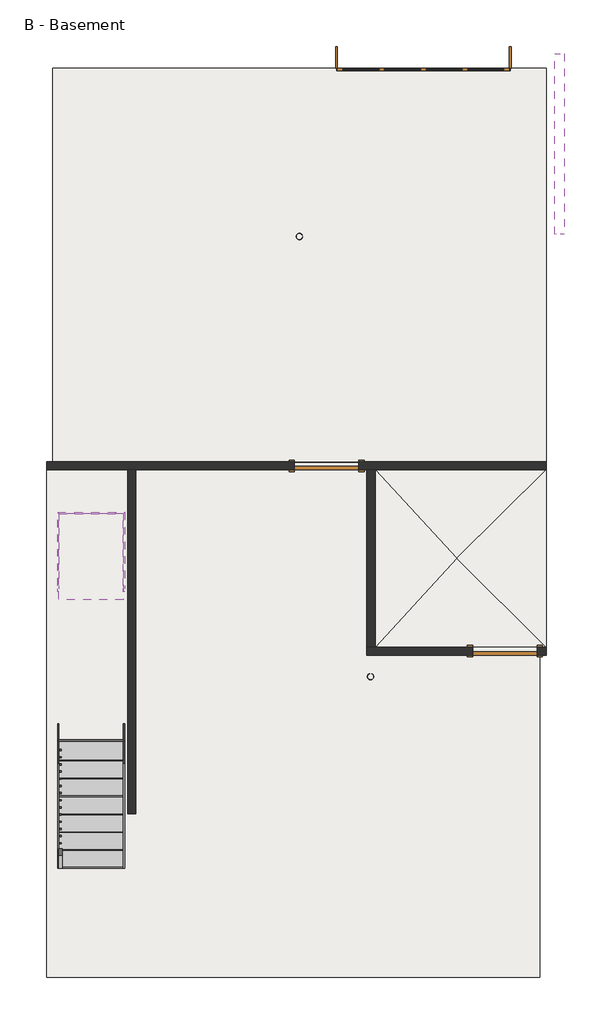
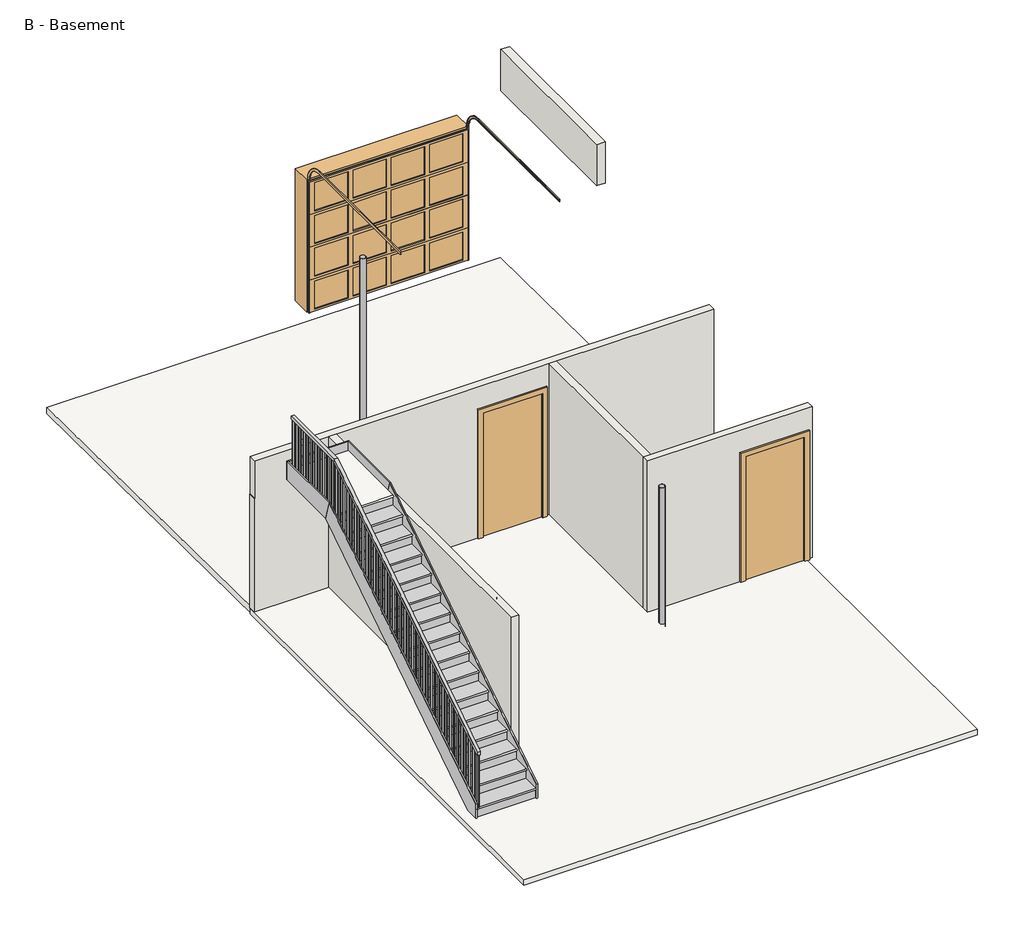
# One storey: 6 columns, 5 members, 5 walls, 4 doors, 4 slabs, 1 railing, 1 stair flight.
"""IFC4 building model written with IfcOpenShell, lengths in millimetres."""

from ifc_helpers import new_model, si_unit, frame, origin, place, context, project, spatial, polyline, outline, extrude, faceted_brep, transform, mapped, element, save
from components import pipe_column_pipe3std_9084b5a9, pipe_column_pipe3std_1d2571e4, pipe_column_pipe3std_a24632ea, pipe_column_pipe3std_cec0fb77, door_7a04b6f2, door_5e62189b, non_monolithic_landing_b96ad3e3, stair_flight_4d136fde

model = new_model("IFC4")

# Units and contexts
model_context = context("Model", 3, world=origin())
ifc_project = project(units=[si_unit("LENGTHUNIT", "METRE", prefix="MILLI")], contexts=[model_context])

# Site, building, storey
site = spatial("IfcSite", under=ifc_project)
building = spatial("IfcBuilding", under=site)
storey = spatial("IfcBuildingStorey", under=building, Name="B - Basement", Elevation=-2178.05)

# Columns
placement = place(None, origin())
pipe_column_pipe3std_shape = pipe_column_pipe3std_9084b5a9(model_context)
element("IfcColumn", 1, ObjectType="Pipe-Column : Pipe3STD", at=placement, inside=storey, context=model_context, shape_type="MappedRepresentation", body=[
    mapped(pipe_column_pipe3std_shape, transform((640.2370514, -2782.5289462, 0.0), x_axis=(1.0, 0.0, 0.0), y_axis=(0.0, 1.0, 0.0), z_axis=(0.0, 0.0, 1.0))),
])
element("IfcColumn", 2, ObjectType="Pipe-Column : Pipe3STD", at=placement, inside=storey, context=model_context, shape_type="MappedRepresentation", body=[
    mapped(pipe_column_pipe3std_shape, transform((-2750.6629486, -2782.5289462, 0.0), x_axis=(1.0, 0.0, 0.0), y_axis=(0.0, 1.0, 0.0), z_axis=(0.0, 0.0, 1.0))),
])
pipe_column_pipe3std_2_shape = pipe_column_pipe3std_1d2571e4(model_context)
element("IfcColumn", 3, ObjectType="Pipe-Column : Pipe3STD", at=placement, inside=storey, context=model_context, shape_type="MappedRepresentation", body=[
    mapped(pipe_column_pipe3std_2_shape, transform((-2750.6629486, -4154.1289462, 0.0), x_axis=(1.0, 0.0, 0.0), y_axis=(0.0, 1.0, 0.0), z_axis=(0.0, 0.0, 1.0))),
])
pipe_column_pipe3std_3_shape = pipe_column_pipe3std_a24632ea(model_context)
element("IfcColumn", 4, ObjectType="Pipe-Column : Pipe3STD", at=placement, inside=storey, context=model_context, shape_type="MappedRepresentation", body=[
    mapped(pipe_column_pipe3std_3_shape, transform((-2750.6629486, 201.9710538, 0.0), x_axis=(1.0, 0.0, 0.0), y_axis=(0.0, 1.0, 0.0), z_axis=(0.0, 0.0, 1.0))),
])
element("IfcColumn", 5, ObjectType="Pipe-Column : Pipe3STD", at=placement, inside=storey, context=model_context, shape_type="MappedRepresentation", body=[
    mapped(pipe_column_pipe3std_3_shape, transform((640.2370514, 201.9710538, 0.0), x_axis=(1.0, 0.0, 0.0), y_axis=(0.0, 1.0, 0.0), z_axis=(0.0, 0.0, 1.0))),
])
pipe_column_pipe3std_4_shape = pipe_column_pipe3std_cec0fb77(model_context)
element("IfcColumn", 6, ObjectType="Pipe-Column : Pipe3STD", at=placement, inside=storey, context=model_context, shape_type="MappedRepresentation", body=[
    mapped(pipe_column_pipe3std_4_shape, transform((-369.4129486, 3462.6960538, 0.0), x_axis=(1.0, 0.0, 0.0), y_axis=(0.0, 1.0, 0.0), z_axis=(0.0, 0.0, 1.0))),
])

# Doors
door_shape = door_7a04b6f2(model_context)
element("IfcDoor", 7, ObjectType="Door-Garage-Embossed_Panel : 96\" x 84\"", at=placement, inside=storey, context=model_context, shape_type="MappedRepresentation", body=[
    mapped(door_shape, transform((1389.5370514, 6009.0460538, -2178.05), x_axis=(1.0, 0.0, 0.0), y_axis=(0.0, 1.0, 0.0), z_axis=(0.0, 0.0, 1.0))),
])
element("IfcDoor", 8, ObjectType="Door-Garage-Embossed_Panel : 96\" x 84\"", at=placement, inside=storey, context=model_context, shape_type="MappedRepresentation", body=[
    mapped(door_shape, transform((1389.5370514, 6009.0460538, -2178.05), x_axis=(1.0, 0.0, 0.0), y_axis=(0.0, 1.0, 0.0), z_axis=(0.0, 0.0, 1.0))),
])
door_2_shape = door_5e62189b(model_context)
element("IfcDoor", 9, ObjectType="Single-Flush : 36\" x 80\"", at=placement, inside=storey, context=model_context, shape_type="MappedRepresentation", body=[
    mapped(door_2_shape, transform((17.9370514, 208.3210538, -2178.05), x_axis=(1.0, 0.0, 0.0), y_axis=(0.0, 1.0, 0.0), z_axis=(0.0, 0.0, 1.0))),
])
element("IfcDoor", 10, ObjectType="Single-Flush : 36\" x 80\"", at=placement, inside=storey, context=model_context, shape_type="MappedRepresentation", body=[
    mapped(door_2_shape, transform((2545.2370514, -2420.5789462, -2178.05), x_axis=(1.0, 0.0, 0.0), y_axis=(0.0, 1.0, 0.0), z_axis=(0.0, 0.0, 1.0))),
])

# Members
element("IfcMember", 11, ObjectType="Stringer - Paint - 3/4\" Width", at=placement, inside=storey, context=model_context, shape_type="SweptSolid", body=[
    extrude(outline(polyline([(-5500.3289462, -2178.05), (-5500.3289462, -1944.6832083), (-1580.7789382, 596.9), (-1490.6062153, 292.1), (-5299.9941671, -2178.05), (-5500.3289462, -2178.05)])), frame((-3801.5879486, 0.0, 0.0), z_axis=(1.0, 0.0, 0.0), x_axis=(0.0, 1.0, 0.0)), (0.0, 0.0, 1.0), 19.05),
])
element("IfcMember", 12, ObjectType="Stringer - Paint - 3/4\" Width", at=placement, inside=storey, context=model_context, shape_type="SweptSolid", body=[
    extrude(outline(polyline([(-5500.3289462, -2178.05), (-5500.3289462, -1944.6832083), (-1580.7789382, 596.9), (-1490.6062153, 292.1), (-5299.9941671, -2178.05), (-5500.3289462, -2178.05)])), frame((-2868.1379486, 0.0, 0.0), z_axis=(1.0, 0.0, 0.0), x_axis=(0.0, 1.0, 0.0)), (0.0, 0.0, 1.0), 19.05),
])
element("IfcMember", 13, ObjectType="Stringer - Paint - 3/4\" Width", at=placement, inside=storey, context=model_context, shape_type="SweptSolid", body=[
    extrude(outline(polyline([(-2849.0879486, -452.0789462), (-2868.1379486, -471.1289462), (-3782.5379486, -471.1289462), (-3801.5879486, -452.0789462), (-2849.0879486, -452.0789462)])), frame((0.0, 0.0, 292.1), z_axis=(0.0, 0.0, 1.0), x_axis=(1.0, 0.0, 0.0)), (0.0, 0.0, 1.0), 304.8),
])
element("IfcMember", 14, ObjectType="Stringer - Paint - 3/4\" Width", at=placement, inside=storey, context=model_context, shape_type="Brep", body=[
    faceted_brep([(-3782.5379486, -471.1289462, 596.9), (-3801.5879486, -452.0789462, 596.9), (-3801.5879486, -1580.7789382, 596.9), (-3782.5379486, -1580.7789382, 596.9), (-3782.5379486, -471.1289462, 292.1), (-3782.5379486, -1490.6062153, 292.1), (-3801.5879486, -452.0789462, 292.1), (-3801.5879486, -1490.6062153, 292.1)], [[[0, 1, 2, 3]], [[4, 0, 3, 5]], [[6, 4, 5, 7]], [[1, 6, 7, 2]], [[1, 0, 4, 6]], [[2, 7, 5, 3]]]),
])
element("IfcMember", 15, ObjectType="Stringer - Paint - 3/4\" Width", at=placement, inside=storey, context=model_context, shape_type="Brep", body=[
    faceted_brep([(-2868.1379486, -1580.7789382, 596.9), (-2849.0879486, -1580.7789382, 596.9), (-2849.0879486, -452.0789462, 596.9), (-2868.1379486, -471.1289462, 596.9), (-2868.1379486, -1490.6062153, 292.1), (-2868.1379486, -471.1289462, 292.1), (-2849.0879486, -1490.6062153, 292.1), (-2849.0879486, -452.0789462, 292.1)], [[[0, 1, 2, 3]], [[4, 0, 3, 5]], [[6, 4, 5, 7]], [[1, 6, 7, 2]], [[1, 0, 4, 6]], [[2, 7, 5, 3]]]),
])

# Railing
element("IfcRailing", 16, ObjectType="Handrail - Rectangular", at=placement, inside=storey, context=model_context, shape_type="SolidModel", body=[
    faceted_brep([(-3782.5379486, -531.4539462, 1371.6), (-3731.7379486, -531.4539462, 1371.6), (-3731.7379486, -531.4539462, 1320.8), (-3782.5379486, -531.4539462, 1320.8), (-3782.5379486, -1675.3001591, 1320.8), (-3782.5379486, -1690.3289462, 1371.6), (-3731.7379486, -1675.3001591, 1320.8), (-3731.7379486, -1690.3289462, 1371.6), (-3782.5379486, -5500.3289462, -1098.946875), (-3782.5379486, -5500.3289462, -1159.4921042), (-3731.7379486, -5500.3289462, -1159.4921042), (-3731.7379486, -5500.3289462, -1098.946875)], [[[0, 1, 2, 3]], [[4, 5, 0, 3]], [[6, 4, 3, 2]], [[7, 6, 2, 1]], [[5, 7, 1, 0]], [[8, 9, 10, 11]], [[9, 8, 5, 4]], [[10, 9, 4, 6]], [[11, 10, 6, 7]], [[8, 11, 7, 5]]]),
    extrude(outline(polyline([(-5459.0539462, -1132.7278464), (-5440.0039462, -1120.375112), (-5440.0039462, -2013.346875), (-5459.0539462, -2013.346875), (-5459.0539462, -1132.7278464)])), frame((-3766.6629486, 0.0, 0.0), z_axis=(1.0, 0.0, 0.0), x_axis=(0.0, 1.0, 0.0)), (0.0, 0.0, 1.0), 19.05),
    extrude(outline(polyline([(-5357.4539462, -1066.8465964), (-5338.4039462, -1054.493862), (-5338.4039462, -2013.346875), (-5357.4539462, -2013.346875), (-5357.4539462, -1066.8465964)])), frame((-3766.6629486, 0.0, 0.0), z_axis=(1.0, 0.0, 0.0), x_axis=(0.0, 1.0, 0.0)), (0.0, 0.0, 1.0), 19.05),
    extrude(outline(polyline([(-5255.8539462, -1000.9653464), (-5236.8039462, -988.612612), (-5236.8039462, -1848.64375), (-5255.8539462, -1848.64375), (-5255.8539462, -1000.9653464)])), frame((-3766.6629486, 0.0, 0.0), z_axis=(1.0, 0.0, 0.0), x_axis=(0.0, 1.0, 0.0)), (0.0, 0.0, 1.0), 19.05),
    extrude(outline(polyline([(-5154.2539462, -935.0840964), (-5135.2039462, -922.731362), (-5135.2039462, -1848.64375), (-5154.2539462, -1848.64375), (-5154.2539462, -935.0840964)])), frame((-3766.6629486, 0.0, 0.0), z_axis=(1.0, 0.0, 0.0), x_axis=(0.0, 1.0, 0.0)), (0.0, 0.0, 1.0), 19.05),
    extrude(outline(polyline([(-5052.6539462, -869.2028464), (-5033.6039462, -856.850112), (-5033.6039462, -1848.64375), (-5052.6539462, -1848.64375), (-5052.6539462, -869.2028464)])), frame((-3766.6629486, 0.0, 0.0), z_axis=(1.0, 0.0, 0.0), x_axis=(0.0, 1.0, 0.0)), (0.0, 0.0, 1.0), 19.05),
    extrude(outline(polyline([(-4951.0539462, -803.3215964), (-4932.0039462, -790.968862), (-4932.0039462, -1683.940625), (-4951.0539462, -1683.940625), (-4951.0539462, -803.3215964)])), frame((-3766.6629486, 0.0, 0.0), z_axis=(1.0, 0.0, 0.0), x_axis=(0.0, 1.0, 0.0)), (0.0, 0.0, 1.0), 19.05),
    extrude(outline(polyline([(-4849.4539462, -737.4403464), (-4830.4039462, -725.087612), (-4830.4039462, -1683.940625), (-4849.4539462, -1683.940625), (-4849.4539462, -737.4403464)])), frame((-3766.6629486, 0.0, 0.0), z_axis=(1.0, 0.0, 0.0), x_axis=(0.0, 1.0, 0.0)), (0.0, 0.0, 1.0), 19.05),
    extrude(outline(polyline([(-4747.8539462, -671.5590964), (-4728.8039462, -659.206362), (-4728.8039462, -1519.2375), (-4747.8539462, -1519.2375), (-4747.8539462, -671.5590964)])), frame((-3766.6629486, 0.0, 0.0), z_axis=(1.0, 0.0, 0.0), x_axis=(0.0, 1.0, 0.0)), (0.0, 0.0, 1.0), 19.05),
    extrude(outline(polyline([(-4646.2539462, -605.6778464), (-4627.2039462, -593.325112), (-4627.2039462, -1519.2375), (-4646.2539462, -1519.2375), (-4646.2539462, -605.6778464)])), frame((-3766.6629486, 0.0, 0.0), z_axis=(1.0, 0.0, 0.0), x_axis=(0.0, 1.0, 0.0)), (0.0, 0.0, 1.0), 19.05),
    extrude(outline(polyline([(-4544.6539462, -539.7965964), (-4525.6039462, -527.443862), (-4525.6039462, -1519.2375), (-4544.6539462, -1519.2375), (-4544.6539462, -539.7965964)])), frame((-3766.6629486, 0.0, 0.0), z_axis=(1.0, 0.0, 0.0), x_axis=(0.0, 1.0, 0.0)), (0.0, 0.0, 1.0), 19.05),
    extrude(outline(polyline([(-4443.0539462, -473.9153464), (-4424.0039462, -461.562612), (-4424.0039462, -1354.534375), (-4443.0539462, -1354.534375), (-4443.0539462, -473.9153464)])), frame((-3766.6629486, 0.0, 0.0), z_axis=(1.0, 0.0, 0.0), x_axis=(0.0, 1.0, 0.0)), (0.0, 0.0, 1.0), 19.05),
    extrude(outline(polyline([(-4341.4539462, -408.0340964), (-4322.4039462, -395.681362), (-4322.4039462, -1354.534375), (-4341.4539462, -1354.534375), (-4341.4539462, -408.0340964)])), frame((-3766.6629486, 0.0, 0.0), z_axis=(1.0, 0.0, 0.0), x_axis=(0.0, 1.0, 0.0)), (0.0, 0.0, 1.0), 19.05),
    extrude(outline(polyline([(-4239.8539462, -342.1528464), (-4220.8039462, -329.800112), (-4220.8039462, -1189.83125), (-4239.8539462, -1189.83125), (-4239.8539462, -342.1528464)])), frame((-3766.6629486, 0.0, 0.0), z_axis=(1.0, 0.0, 0.0), x_axis=(0.0, 1.0, 0.0)), (0.0, 0.0, 1.0), 19.05),
    extrude(outline(polyline([(-4138.2539462, -276.2715964), (-4119.2039462, -263.918862), (-4119.2039462, -1189.83125), (-4138.2539462, -1189.83125), (-4138.2539462, -276.2715964)])), frame((-3766.6629486, 0.0, 0.0), z_axis=(1.0, 0.0, 0.0), x_axis=(0.0, 1.0, 0.0)), (0.0, 0.0, 1.0), 19.05),
    extrude(outline(polyline([(-4036.6539462, -210.3903464), (-4017.6039462, -198.037612), (-4017.6039462, -1189.83125), (-4036.6539462, -1189.83125), (-4036.6539462, -210.3903464)])), frame((-3766.6629486, 0.0, 0.0), z_axis=(1.0, 0.0, 0.0), x_axis=(0.0, 1.0, 0.0)), (0.0, 0.0, 1.0), 19.05),
    extrude(outline(polyline([(-3935.0539462, -144.5090964), (-3916.0039462, -132.156362), (-3916.0039462, -1025.128125), (-3935.0539462, -1025.128125), (-3935.0539462, -144.5090964)])), frame((-3766.6629486, 0.0, 0.0), z_axis=(1.0, 0.0, 0.0), x_axis=(0.0, 1.0, 0.0)), (0.0, 0.0, 1.0), 19.05),
    extrude(outline(polyline([(-3833.4539462, -78.6278464), (-3814.4039462, -66.275112), (-3814.4039462, -1025.128125), (-3833.4539462, -1025.128125), (-3833.4539462, -78.6278464)])), frame((-3766.6629486, 0.0, 0.0), z_axis=(1.0, 0.0, 0.0), x_axis=(0.0, 1.0, 0.0)), (0.0, 0.0, 1.0), 19.05),
    extrude(outline(polyline([(-3731.8539462, -12.7465964), (-3712.8039462, -0.393862), (-3712.8039462, -860.425), (-3731.8539462, -860.425), (-3731.8539462, -12.7465964)])), frame((-3766.6629486, 0.0, 0.0), z_axis=(1.0, 0.0, 0.0), x_axis=(0.0, 1.0, 0.0)), (0.0, 0.0, 1.0), 19.05),
    extrude(outline(polyline([(-3630.2539462, 53.1346536), (-3611.2039462, 65.487388), (-3611.2039462, -860.425), (-3630.2539462, -860.425), (-3630.2539462, 53.1346536)])), frame((-3766.6629486, 0.0, 0.0), z_axis=(1.0, 0.0, 0.0), x_axis=(0.0, 1.0, 0.0)), (0.0, 0.0, 1.0), 19.05),
    extrude(outline(polyline([(-3528.6539462, 119.0159036), (-3509.6039462, 131.368638), (-3509.6039462, -860.425), (-3528.6539462, -860.425), (-3528.6539462, 119.0159036)])), frame((-3766.6629486, 0.0, 0.0), z_axis=(1.0, 0.0, 0.0), x_axis=(0.0, 1.0, 0.0)), (0.0, 0.0, 1.0), 19.05),
    extrude(outline(polyline([(-3427.0539462, 184.8971536), (-3408.0039462, 197.249888), (-3408.0039462, -695.721875), (-3427.0539462, -695.721875), (-3427.0539462, 184.8971536)])), frame((-3766.6629486, 0.0, 0.0), z_axis=(1.0, 0.0, 0.0), x_axis=(0.0, 1.0, 0.0)), (0.0, 0.0, 1.0), 19.05),
    extrude(outline(polyline([(-3325.4539462, 250.7784036), (-3306.4039462, 263.131138), (-3306.4039462, -695.721875), (-3325.4539462, -695.721875), (-3325.4539462, 250.7784036)])), frame((-3766.6629486, 0.0, 0.0), z_axis=(1.0, 0.0, 0.0), x_axis=(0.0, 1.0, 0.0)), (0.0, 0.0, 1.0), 19.05),
    extrude(outline(polyline([(-3223.8539462, 316.6596536), (-3204.8039462, 329.012388), (-3204.8039462, -531.01875), (-3223.8539462, -531.01875), (-3223.8539462, 316.6596536)])), frame((-3766.6629486, 0.0, 0.0), z_axis=(1.0, 0.0, 0.0), x_axis=(0.0, 1.0, 0.0)), (0.0, 0.0, 1.0), 19.05),
    extrude(outline(polyline([(-3122.2539462, 382.5409036), (-3103.2039462, 394.893638), (-3103.2039462, -531.01875), (-3122.2539462, -531.01875), (-3122.2539462, 382.5409036)])), frame((-3766.6629486, 0.0, 0.0), z_axis=(1.0, 0.0, 0.0), x_axis=(0.0, 1.0, 0.0)), (0.0, 0.0, 1.0), 19.05),
    extrude(outline(polyline([(-3020.6539462, 448.4221536), (-3001.6039462, 460.774888), (-3001.6039462, -531.01875), (-3020.6539462, -531.01875), (-3020.6539462, 448.4221536)])), frame((-3766.6629486, 0.0, 0.0), z_axis=(1.0, 0.0, 0.0), x_axis=(0.0, 1.0, 0.0)), (0.0, 0.0, 1.0), 19.05),
    extrude(outline(polyline([(-2919.0539462, 514.3034036), (-2900.0039462, 526.656138), (-2900.0039462, -366.315625), (-2919.0539462, -366.315625), (-2919.0539462, 514.3034036)])), frame((-3766.6629486, 0.0, 0.0), z_axis=(1.0, 0.0, 0.0), x_axis=(0.0, 1.0, 0.0)), (0.0, 0.0, 1.0), 19.05),
    extrude(outline(polyline([(-2817.4539462, 580.1846536), (-2798.4039462, 592.537388), (-2798.4039462, -366.315625), (-2817.4539462, -366.315625), (-2817.4539462, 580.1846536)])), frame((-3766.6629486, 0.0, 0.0), z_axis=(1.0, 0.0, 0.0), x_axis=(0.0, 1.0, 0.0)), (0.0, 0.0, 1.0), 19.05),
    extrude(outline(polyline([(-2715.8539462, 646.0659036), (-2696.8039462, 658.418638), (-2696.8039462, -201.6125), (-2715.8539462, -201.6125), (-2715.8539462, 646.0659036)])), frame((-3766.6629486, 0.0, 0.0), z_axis=(1.0, 0.0, 0.0), x_axis=(0.0, 1.0, 0.0)), (0.0, 0.0, 1.0), 19.05),
    extrude(outline(polyline([(-2614.2539462, 711.9471536), (-2595.2039462, 724.299888), (-2595.2039462, -201.6125), (-2614.2539462, -201.6125), (-2614.2539462, 711.9471536)])), frame((-3766.6629486, 0.0, 0.0), z_axis=(1.0, 0.0, 0.0), x_axis=(0.0, 1.0, 0.0)), (0.0, 0.0, 1.0), 19.05),
    extrude(outline(polyline([(-2512.6539462, 777.8284036), (-2493.6039462, 790.181138), (-2493.6039462, -201.6125), (-2512.6539462, -201.6125), (-2512.6539462, 777.8284036)])), frame((-3766.6629486, 0.0, 0.0), z_axis=(1.0, 0.0, 0.0), x_axis=(0.0, 1.0, 0.0)), (0.0, 0.0, 1.0), 19.05),
    extrude(outline(polyline([(-2411.0539462, 843.7096536), (-2392.0039462, 856.062388), (-2392.0039462, -36.909375), (-2411.0539462, -36.909375), (-2411.0539462, 843.7096536)])), frame((-3766.6629486, 0.0, 0.0), z_axis=(1.0, 0.0, 0.0), x_axis=(0.0, 1.0, 0.0)), (0.0, 0.0, 1.0), 19.05),
    extrude(outline(polyline([(-2309.4539462, 909.5909036), (-2290.4039462, 921.943638), (-2290.4039462, -36.909375), (-2309.4539462, -36.909375), (-2309.4539462, 909.5909036)])), frame((-3766.6629486, 0.0, 0.0), z_axis=(1.0, 0.0, 0.0), x_axis=(0.0, 1.0, 0.0)), (0.0, 0.0, 1.0), 19.05),
    extrude(outline(polyline([(-2207.8539462, 975.4721536), (-2188.8039462, 987.824888), (-2188.8039462, 127.79375), (-2207.8539462, 127.79375), (-2207.8539462, 975.4721536)])), frame((-3766.6629486, 0.0, 0.0), z_axis=(1.0, 0.0, 0.0), x_axis=(0.0, 1.0, 0.0)), (0.0, 0.0, 1.0), 19.05),
    extrude(outline(polyline([(-2106.2539462, 1041.3534036), (-2087.2039462, 1053.706138), (-2087.2039462, 127.79375), (-2106.2539462, 127.79375), (-2106.2539462, 1041.3534036)])), frame((-3766.6629486, 0.0, 0.0), z_axis=(1.0, 0.0, 0.0), x_axis=(0.0, 1.0, 0.0)), (0.0, 0.0, 1.0), 19.05),
    extrude(outline(polyline([(-2004.6539462, 1107.2346536), (-1985.6039462, 1119.587388), (-1985.6039462, 127.79375), (-2004.6539462, 127.79375), (-2004.6539462, 1107.2346536)])), frame((-3766.6629486, 0.0, 0.0), z_axis=(1.0, 0.0, 0.0), x_axis=(0.0, 1.0, 0.0)), (0.0, 0.0, 1.0), 19.05),
    extrude(outline(polyline([(-1903.0539462, 1173.1159036), (-1884.0039462, 1185.468638), (-1884.0039462, 292.496875), (-1903.0539462, 292.496875), (-1903.0539462, 1173.1159036)])), frame((-3766.6629486, 0.0, 0.0), z_axis=(1.0, 0.0, 0.0), x_axis=(0.0, 1.0, 0.0)), (0.0, 0.0, 1.0), 19.05),
    extrude(outline(polyline([(-1801.4539462, 1238.9971536), (-1782.4039462, 1251.349888), (-1782.4039462, 292.496875), (-1801.4539462, 292.496875), (-1801.4539462, 1238.9971536)])), frame((-3766.6629486, 0.0, 0.0), z_axis=(1.0, 0.0, 0.0), x_axis=(0.0, 1.0, 0.0)), (0.0, 0.0, 1.0), 19.05),
    extrude(outline(polyline([(-3766.6629486, -1639.5289462), (-3747.6129486, -1639.5289462), (-3747.6129486, -1658.5789462), (-3766.6629486, -1658.5789462), (-3766.6629486, -1639.5289462)])), frame((0.0, 0.0, 457.2), z_axis=(0.0, 0.0, 1.0), x_axis=(1.0, 0.0, 0.0)), (0.0, 0.0, 1.0), 863.6),
    extrude(outline(polyline([(-3766.6629486, -1537.9289462), (-3747.6129486, -1537.9289462), (-3747.6129486, -1556.9789462), (-3766.6629486, -1556.9789462), (-3766.6629486, -1537.9289462)])), frame((0.0, 0.0, 457.2), z_axis=(0.0, 0.0, 1.0), x_axis=(1.0, 0.0, 0.0)), (0.0, 0.0, 1.0), 863.6),
    extrude(outline(polyline([(-3766.6629486, -1436.3289462), (-3747.6129486, -1436.3289462), (-3747.6129486, -1455.3789462), (-3766.6629486, -1455.3789462), (-3766.6629486, -1436.3289462)])), frame((0.0, 0.0, 457.2), z_axis=(0.0, 0.0, 1.0), x_axis=(1.0, 0.0, 0.0)), (0.0, 0.0, 1.0), 863.6),
    extrude(outline(polyline([(-3766.6629486, -1334.7289462), (-3747.6129486, -1334.7289462), (-3747.6129486, -1353.7789462), (-3766.6629486, -1353.7789462), (-3766.6629486, -1334.7289462)])), frame((0.0, 0.0, 457.2), z_axis=(0.0, 0.0, 1.0), x_axis=(1.0, 0.0, 0.0)), (0.0, 0.0, 1.0), 863.6),
    extrude(outline(polyline([(-3766.6629486, -1233.1289462), (-3747.6129486, -1233.1289462), (-3747.6129486, -1252.1789462), (-3766.6629486, -1252.1789462), (-3766.6629486, -1233.1289462)])), frame((0.0, 0.0, 457.2), z_axis=(0.0, 0.0, 1.0), x_axis=(1.0, 0.0, 0.0)), (0.0, 0.0, 1.0), 863.6),
    extrude(outline(polyline([(-3766.6629486, -1131.5289462), (-3747.6129486, -1131.5289462), (-3747.6129486, -1150.5789462), (-3766.6629486, -1150.5789462), (-3766.6629486, -1131.5289462)])), frame((0.0, 0.0, 457.2), z_axis=(0.0, 0.0, 1.0), x_axis=(1.0, 0.0, 0.0)), (0.0, 0.0, 1.0), 863.6),
    extrude(outline(polyline([(-3766.6629486, -1029.9289462), (-3747.6129486, -1029.9289462), (-3747.6129486, -1048.9789462), (-3766.6629486, -1048.9789462), (-3766.6629486, -1029.9289462)])), frame((0.0, 0.0, 457.2), z_axis=(0.0, 0.0, 1.0), x_axis=(1.0, 0.0, 0.0)), (0.0, 0.0, 1.0), 863.6),
    extrude(outline(polyline([(-3766.6629486, -928.3289462), (-3747.6129486, -928.3289462), (-3747.6129486, -947.3789462), (-3766.6629486, -947.3789462), (-3766.6629486, -928.3289462)])), frame((0.0, 0.0, 457.2), z_axis=(0.0, 0.0, 1.0), x_axis=(1.0, 0.0, 0.0)), (0.0, 0.0, 1.0), 863.6),
    extrude(outline(polyline([(-3766.6629486, -826.7289462), (-3747.6129486, -826.7289462), (-3747.6129486, -845.7789462), (-3766.6629486, -845.7789462), (-3766.6629486, -826.7289462)])), frame((0.0, 0.0, 457.2), z_axis=(0.0, 0.0, 1.0), x_axis=(1.0, 0.0, 0.0)), (0.0, 0.0, 1.0), 863.6),
    extrude(outline(polyline([(-3766.6629486, -725.1289462), (-3747.6129486, -725.1289462), (-3747.6129486, -744.1789462), (-3766.6629486, -744.1789462), (-3766.6629486, -725.1289462)])), frame((0.0, 0.0, 457.2), z_axis=(0.0, 0.0, 1.0), x_axis=(1.0, 0.0, 0.0)), (0.0, 0.0, 1.0), 863.6),
    extrude(outline(polyline([(-3766.6629486, -623.5289462), (-3747.6129486, -623.5289462), (-3747.6129486, -642.5789462), (-3766.6629486, -642.5789462), (-3766.6629486, -623.5289462)])), frame((0.0, 0.0, 457.2), z_axis=(0.0, 0.0, 1.0), x_axis=(1.0, 0.0, 0.0)), (0.0, 0.0, 1.0), 863.6),
    extrude(outline(polyline([(-3766.6629486, -1680.8039462), (-3747.6129486, -1680.8039462), (-3747.6129486, -1699.8539462), (-3766.6629486, -1699.8539462), (-3766.6629486, -1680.8039462)])), frame((0.0, 0.0, 457.2), z_axis=(0.0, 0.0, 1.0), x_axis=(1.0, 0.0, 0.0)), (0.0, 0.0, 1.0), 863.6),
    extrude(outline(polyline([(-5500.3289462, -1159.4921042), (-5481.2789462, -1147.1393698), (-5481.2789462, -2013.346875), (-5500.3289462, -2013.346875), (-5500.3289462, -1159.4921042)])), frame((-3766.6629486, 0.0, 0.0), z_axis=(1.0, 0.0, 0.0), x_axis=(0.0, 1.0, 0.0)), (0.0, 0.0, 1.0), 19.05),
    extrude(outline(polyline([(-3766.6629486, -531.4539462), (-3747.6129486, -531.4539462), (-3747.6129486, -550.5039462), (-3766.6629486, -550.5039462), (-3766.6629486, -531.4539462)])), frame((0.0, 0.0, 457.2), z_axis=(0.0, 0.0, 1.0), x_axis=(1.0, 0.0, 0.0)), (0.0, 0.0, 1.0), 863.6),
])

# Slabs
element("IfcSlab", 17, ObjectType="Concrete Slab - 3 1/2\"", at=placement, inside=storey, context=model_context, shape_type="Brep", body=[
    faceted_brep([(3129.4370514, 151.1710538, -2266.95), (3129.4370514, -2363.4289462, -2266.95), (703.7370514, -2363.4289462, -2266.95), (703.7370514, 151.1710538, -2266.95), (3129.4370514, 151.1710538, -2178.05), (3129.4370514, -2363.4289462, -2178.05), (703.7370514, -2363.4289462, -2178.05), (703.7370514, 151.1710538, -2178.05), (1865.63655, -1100.6899782, -2190.75)], [[[0, 1, 2, 3]], [[1, 0, 4, 5]], [[2, 1, 5, 6]], [[3, 2, 6, 7]], [[0, 3, 7, 4]], [[7, 6, 8]], [[5, 4, 8]], [[6, 5, 8]], [[7, 8, 4]]]),
])
element("IfcSlab", 18, ObjectType="Concrete Slab - 3 1/2\"", at=placement, inside=storey, context=model_context, shape_type="SweptSolid", body=[
    extrude(outline(polyline([(3040.5370514, 252.7710538), (3040.5370514, 163.8710538), (614.8370514, 163.8710538), (614.8370514, -2363.4289462), (3040.5370514, -2363.4289462), (3040.5370514, -7049.7289462), (-3957.1629486, -7049.7289462), (-3957.1629486, 252.7710538), (3040.5370514, 252.7710538)])), frame((0.0, 0.0, -2266.95), z_axis=(0.0, 0.0, 1.0), x_axis=(1.0, 0.0, 0.0)), (0.0, 0.0, 1.0), 88.9),
])
element("IfcSlab", 19, ObjectType="Concrete Slab - 4\"", at=placement, inside=storey, context=model_context, shape_type="SweptSolid", body=[
    extrude(outline(polyline([(5853.4710538, -2432.055512), (265.4710538, -2373.8471787), (265.4710538, -2272.2416667), (5853.4710538, -2330.45), (5853.4710538, -2432.055512)])), frame((-3868.2629486, 0.0, 0.0), z_axis=(1.0, 0.0, 0.0), x_axis=(0.0, 1.0, 0.0)), (0.0, 0.0, 1.0), 6997.7),
])
non_monolithic_landing_shape = non_monolithic_landing_b96ad3e3(model_context)
element("IfcSlab", 20, ObjectType="Non-Monolithic Landing", at=placement, inside=storey, context=model_context, shape_type="MappedRepresentation", body=[
    mapped(non_monolithic_landing_shape, transform((0.0, 0.0, 0.0), x_axis=(1.0, 0.0, 0.0), y_axis=(0.0, 1.0, 0.0), z_axis=(0.0, 0.0, 1.0))),
])

# Stair flight
stair_flight_shape = stair_flight_4d136fde(model_context)
element("IfcStairFlight", 21, ObjectType="Wood Steps with 1\" Front Nosing", at=placement, inside=storey, context=model_context, shape_type="MappedRepresentation", body=[
    mapped(stair_flight_shape, transform((0.0, 0.0, 0.0), x_axis=(1.0, 0.0, 0.0), y_axis=(0.0, 1.0, 0.0), z_axis=(0.0, 0.0, 1.0))),
])

# Walls
element("IfcWall", 22, ObjectType="Exterior - Wood Siding on Wood Stud", at=placement, inside=storey, context=model_context, shape_type="SweptSolid", body=[
    extrude(outline(polyline([(895.35, 3256.4370514), (221.6339078, 3256.4370514), (221.6339078, 3275.4870514), (221.6339078, 3389.7870514), (895.35, 3389.7870514), (895.35, 3256.4370514)])), frame((0.0, 3497.6210538, 0.0), z_axis=(0.0, 1.0, 0.0), x_axis=(0.0, 0.0, 1.0)), (0.0, 0.0, 1.0), 2559.05),
])
element("IfcWall", 23, ObjectType="Interior - 4 1/2\" Partition", at=placement, inside=storey, context=model_context, shape_type="Brep", body=[
    faceted_brep([(3129.4370514, -2363.4289462, -2178.05), (3002.4370514, -2363.4289462, -2178.05), (3002.4370514, -2363.4289462, -146.05), (2088.0370514, -2363.4289462, -146.05), (2088.0370514, -2363.4289462, -2178.05), (703.7370514, -2363.4289462, -2178.05), (589.4370514, -2363.4289462, -2178.05), (589.4370514, -2363.4289462, 285.75), (703.7370514, -2363.4289462, 285.75), (3129.4370514, -2363.4289462, 285.75), (3002.4370514, -2477.7289462, -146.05), (3002.4370514, -2477.7289462, -2178.05), (3129.4370514, -2477.7289462, -2178.05), (3129.4370514, -2477.7289462, 285.75), (589.4370514, -2477.7289462, 285.75), (589.4370514, -2477.7289462, -2178.05), (2088.0370514, -2477.7289462, -2178.05), (2088.0370514, -2477.7289462, -146.05)], [[[0, 1, 2, 3, 4, 5, 6, 7, 8, 9]], [[10, 11, 12, 13, 14, 15, 16, 17]], [[16, 15, 6, 5, 4]], [[12, 11, 1, 0]], [[9, 8, 7, 14, 13]], [[7, 6, 15, 14]], [[2, 1, 11, 10]], [[3, 2, 10, 17]], [[4, 3, 17, 16]], [[0, 9, 13, 12]]]),
])
element("IfcWall", 24, ObjectType="Interior - 4 1/2\" Partition", at=placement, inside=storey, context=model_context, shape_type="Brep", body=[
    faceted_brep([(3129.4370514, 265.4710538, -2178.05), (475.1370514, 265.4710538, -2178.05), (475.1370514, 265.4710538, -146.05), (-439.2629486, 265.4710538, -146.05), (-439.2629486, 265.4710538, -2178.05), (-3957.1629486, 265.4710538, -2178.05), (-3957.1629486, 265.4710538, -323.85), (-3950.8129486, 265.4710538, -323.85), (-3950.8129486, 265.4710538, 285.75), (3129.4370514, 265.4710538, 285.75), (475.1370514, 151.1710538, -146.05), (475.1370514, 151.1710538, -2178.05), (589.4370514, 151.1710538, -2178.05), (703.7370514, 151.1710538, -2178.05), (3129.4370514, 151.1710538, -2178.05), (3129.4370514, 151.1710538, 285.75), (703.7370514, 151.1710538, 285.75), (589.4370514, 151.1710538, 285.75), (-2693.5129486, 151.1710538, 285.75), (-2807.8129486, 151.1710538, 285.75), (-3950.8129486, 151.1710538, 285.75), (-3950.8129486, 151.1710538, -323.85), (-3957.1629486, 151.1710538, -323.85), (-3957.1629486, 151.1710538, -2178.05), (-2807.8129486, 151.1710538, -2178.05), (-2693.5129486, 151.1710538, -2178.05), (-439.2629486, 151.1710538, -2178.05), (-439.2629486, 151.1710538, -146.05)], [[[0, 1, 2, 3, 4, 5, 6, 7, 8, 9]], [[10, 11, 12, 13, 14, 15, 16, 17, 18, 19, 20, 21, 22, 23, 24, 25, 26, 27]], [[14, 13, 12, 11, 1, 0]], [[26, 25, 24, 23, 5, 4]], [[9, 8, 20, 19, 18, 17, 16, 15]], [[2, 1, 11, 10]], [[3, 2, 10, 27]], [[4, 3, 27, 26]], [[21, 7, 6, 22]], [[6, 5, 23, 22]], [[8, 7, 21, 20]], [[0, 9, 15, 14]]]),
])
element("IfcWall", 25, ObjectType="Interior - 4 1/2\" Partition", at=placement, inside=storey, context=model_context, shape_type="SweptSolid", body=[
    extrude(outline(polyline([(703.7370514, 151.1710538), (703.7370514, -2363.4289462), (589.4370514, -2363.4289462), (589.4370514, 151.1710538), (703.7370514, 151.1710538)])), frame((0.0, 0.0, -2178.05), z_axis=(0.0, 0.0, 1.0), x_axis=(1.0, 0.0, 0.0)), (0.0, 0.0, 1.0), 2463.8),
])
element("IfcWall", 26, ObjectType="Interior - 4 1/2\" Partition", at=placement, inside=storey, context=model_context, shape_type="SweptSolid", body=[
    extrude(outline(polyline([(-2807.8129486, -4725.6289462), (-2807.8129486, 151.1710538), (-2693.5129486, 151.1710538), (-2693.5129486, -4725.6289462), (-2807.8129486, -4725.6289462)])), frame((0.0, 0.0, -2178.05), z_axis=(0.0, 0.0, 1.0), x_axis=(1.0, 0.0, 0.0)), (0.0, 0.0, 1.0), 2463.8),
])

save(model, "model.ifc")
